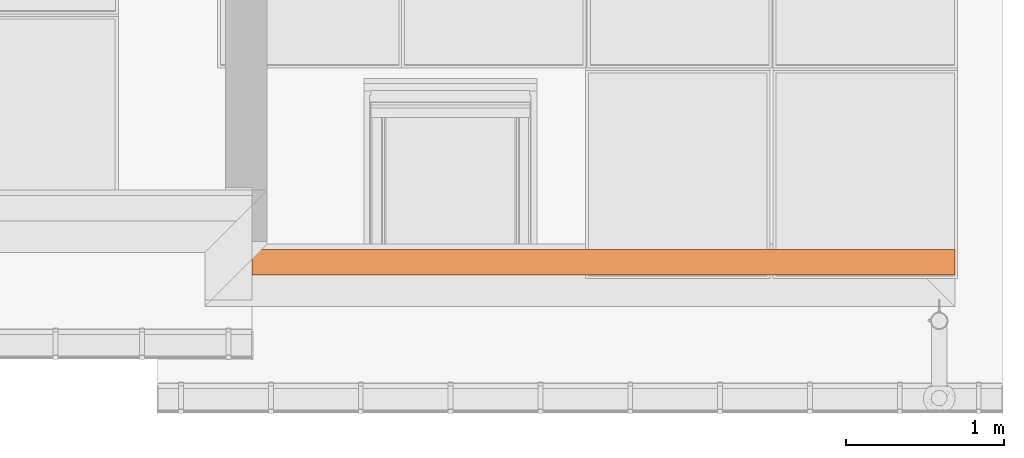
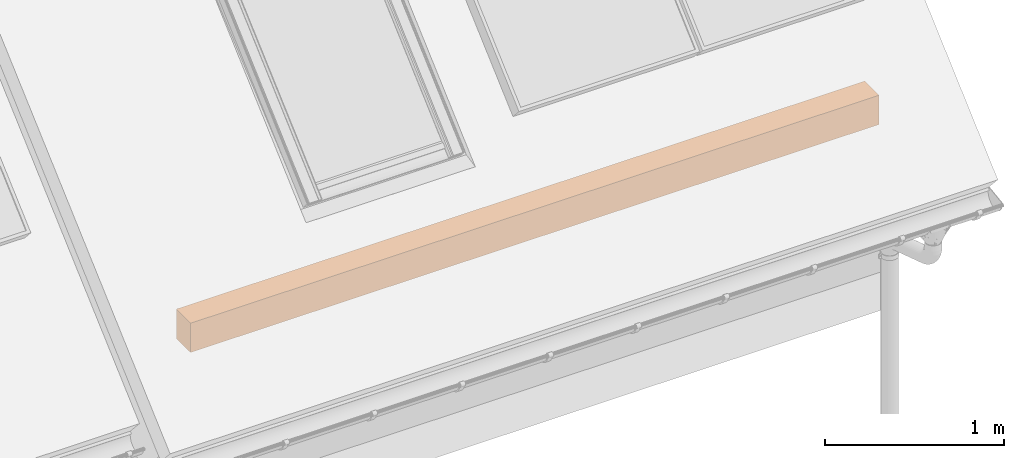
# One storey, part 20 of 43: 1 proxy.
"""IFC2X3 building model written with IfcOpenShell, lengths in millimetres."""

from ifc_helpers import new_model, si_unit, frame, origin_with_axes, place, context, project, spatial, faceted_brep, element, save


model = new_model("IFC2X3")

# Units and contexts
model_context = context("Model", 3, world=origin_with_axes())
ifc_project = project(units=[si_unit("LENGTHUNIT", "METRE", prefix="MILLI")], contexts=[model_context])

# Site, building, storey
site_placement = place(None, origin_with_axes())
site = spatial("IfcSite", under=ifc_project, at=site_placement, Name="Site", CompositionType="ELEMENT")
building_placement = place(site_placement, origin_with_axes())
building = spatial("IfcBuilding", under=site, at=building_placement, Name="?", CompositionType="ELEMENT")
storey_placement = place(building_placement, frame((0.0, 0.0, 5938.0), z_axis=(0.0, 0.0, 1.0), x_axis=(1.0, 0.0, 0.0)))
storey = spatial("IfcBuildingStorey", under=building, at=storey_placement, Name="Dachgeschoß", CompositionType="ELEMENT", Elevation=5938.0)

# Proxy
proxy_placement = place(None, origin_with_axes())
element("IfcBuildingElementProxy", 1, at=proxy_placement, inside=storey, Name="Dach01_KneePurlin#002", ObjectType="purlin", CompositionType="ELEMENT", context=model_context, shape_type="Brep", body=[
    faceted_brep([(18300.0, -7080.0, 6788.0), (13850.0, -7080.0, 6788.0), (13850.0, -7080.0, 6988.0), (18300.0, -7080.0, 6988.0), (18300.0, -7080.0, 6788.0), (18300.0, -7080.0, 6988.0), (18300.0, -7240.0, 6988.0), (18300.0, -7240.0, 6788.0), (13850.0, -7080.0, 6788.0), (18300.0, -7080.0, 6788.0), (18300.0, -7240.0, 6788.0), (13850.0, -7240.0, 6788.0), (13850.0, -7080.0, 6988.0), (13850.0, -7080.0, 6788.0), (13850.0, -7240.0, 6788.0), (13850.0, -7240.0, 6988.0), (18300.0, -7080.0, 6988.0), (13850.0, -7080.0, 6988.0), (13850.0, -7240.0, 6988.0), (18300.0, -7240.0, 6988.0), (18300.0, -7240.0, 6788.0), (18300.0, -7240.0, 6988.0), (13850.0, -7240.0, 6988.0), (13850.0, -7240.0, 6788.0)], [[[0, 1, 2, 3]], [[4, 5, 6, 7]], [[8, 9, 10, 11]], [[12, 13, 14, 15]], [[16, 17, 18, 19]], [[20, 21, 22, 23]]]),
])

save(model, "model.ifc")
